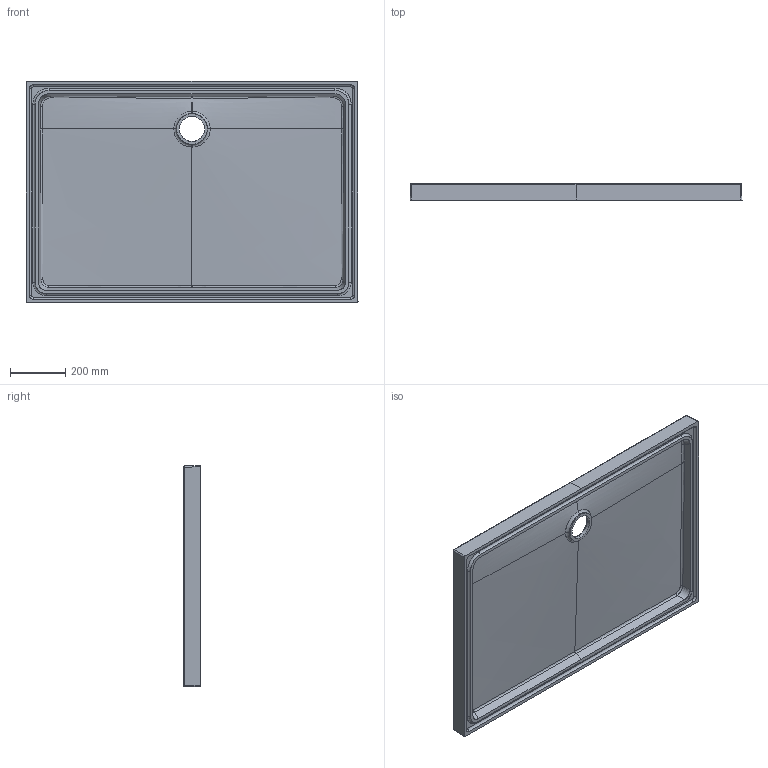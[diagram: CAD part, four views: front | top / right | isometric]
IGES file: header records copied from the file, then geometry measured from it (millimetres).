
Start section: START RECORD GO HERE.
Global section: file name: 1213_3D.igs; native system: DASSAULT SYSTEMES CATIA V5 R19 - www.3ds.com; preprocessor: CATIA Version 5 Release 19 SP 5 ; author: Luca; organization: DESKTOP-V7SON24; date: 20221207.160426; units: millimetre
Bounding box: 1200.19 x 60 x 800.1 mm (x, y, z)
Surface area: 2302010.4 mm2 (no closed solid volume)
Topology: 0 solids, 0 shells, 392 faces, 1824 edges, 1808 vertices
Faces by surface type: bspline 338, revolution 48, plane 6
